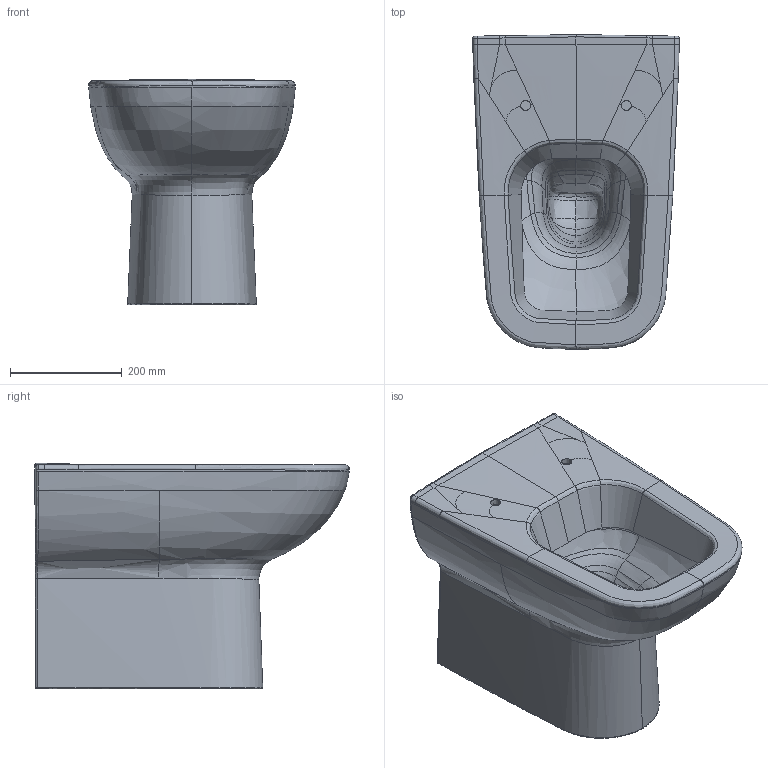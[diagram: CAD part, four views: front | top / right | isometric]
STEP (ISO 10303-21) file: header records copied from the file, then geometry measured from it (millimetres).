
FILE_DESCRIPTION(/* description */ (''),/* implementation_level */ '2;1');
FILE_NAME(/* name */ '560810_Joyce_STWC.stp',/* time_stamp */ '2019-03-08T11:15:15+01:00',/* author */ (''),/* organization */ (''),/* preprocessor_version */ 'ST-DEVELOPER v16',/* originating_system */ 'SIEMENS PLM Software NX 10.0',/* authorisation */ '');
FILE_SCHEMA (('AUTOMOTIVE_DESIGN { 1 0 10303 214 3 1 1 1 }'));
Products named in the file (1): Sier18845CB3195s
Bounding box: 369.33 x 562.62 x 402.95 mm (x, y, z)
Volume: 31854778.2 mm3; surface area: 1077515 mm2
Topology: 1 solids, 1 shells, 167 faces, 406 edges, 241 vertices
Faces by surface type: bspline 154, plane 7, extrusion 4, cylinder 2
Entity records: 33928 total; most frequent: CARTESIAN_POINT 31307, ORIENTED_EDGE 812, EDGE_CURVE 406, B_SPLINE_CURVE_WITH_KNOTS 359, VERTEX_POINT 241, ADVANCED_FACE 167, FACE_OUTER_BOUND 167, EDGE_LOOP 167
